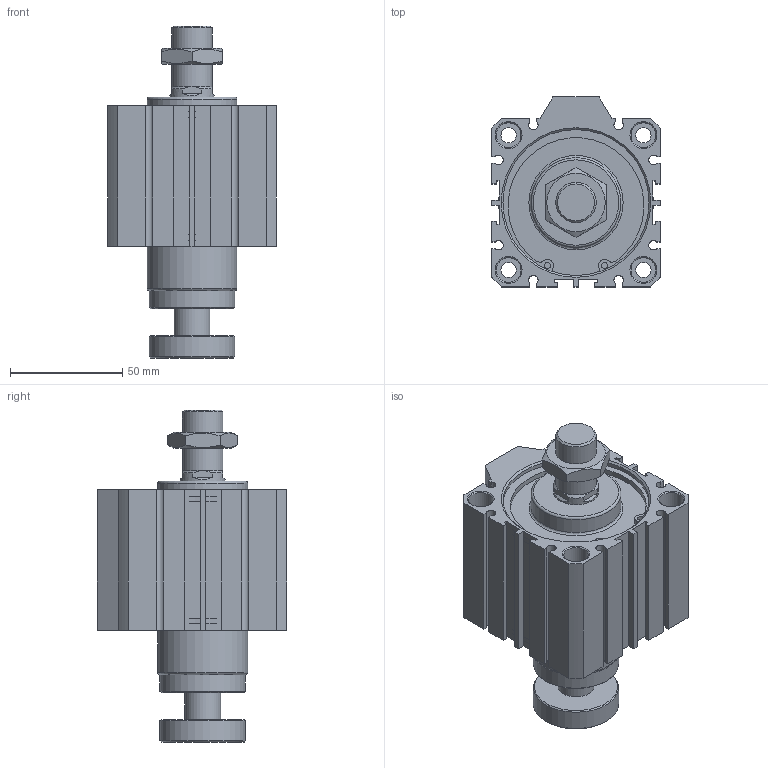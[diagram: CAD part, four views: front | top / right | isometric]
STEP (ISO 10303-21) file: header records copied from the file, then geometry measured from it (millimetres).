
FILE_DESCRIPTION((''),'2;1');
FILE_NAME('I:\3D電子目錄\氣缸\JDAR\JDAR-B\JDAR63-B\JDAR63x30-B.stp','2007-05-05T09:16:54',('662F206'),(''),'Autodesk Inventor 11','Autodesk Inventor 11','');
FILE_SCHEMA(('AUTOMOTIVE_DESIGN { 1 0 10303 214 1 1 1 1 }'));
Length unit declared in the file: millimetre
Products named in the file (3): JDAR63x30-B; JDAR63-B; R 形環 65
Assembly tree (3 placements, depth 2):
  JDAR63x30-B
    JDAR63-B
    R 形環 65  x2
Bounding box: 75 x 84.5 x 147.8 mm (x, y, z)
Volume: 374408.1 mm3; surface area: 64728.1 mm2
Topology: 3 solids, 3 shells, 201 faces, 487 edges, 317 vertices
Faces by surface type: plane 117, cylinder 56, cone 24, bspline 2, torus 2
Full cylindrical faces by diameter (mm): 2.7 x4, 3 x2, 6.8 x4, 11 x8, 16 x1, 18 x2, 20 x1, 38 x2, 40 x2, 65 x4, 68 x2
Entity records: 5557 total; most frequent: CARTESIAN_POINT 1199, DIRECTION 894, ORIENTED_EDGE 794, EDGE_CURVE 397, AXIS2_PLACEMENT_3D 324, VERTEX_POINT 291, EDGE_LOOP 280, VECTOR 246
